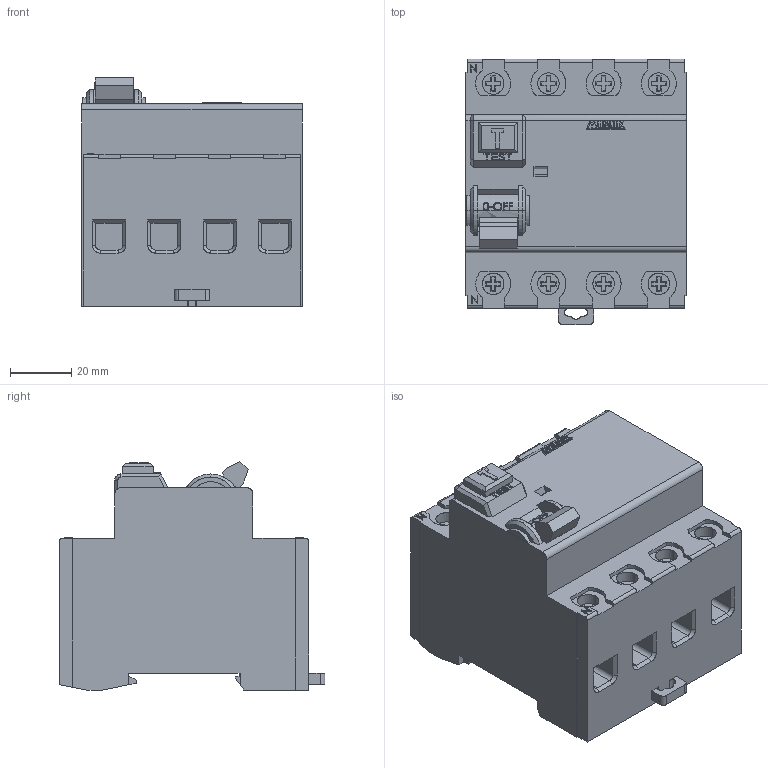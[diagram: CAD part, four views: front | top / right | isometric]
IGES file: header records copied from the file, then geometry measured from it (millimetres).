
Start section: SolidWorks IGES file using analytic representation for surfaces
Global section: file name: D:\X - Arquivos\PROEX\Empresas\P11 - METALTEX\01 - Produtos\IGES\4ª remessa\4ª etapa\DRB100-430.IGS; native system: SolidWorks 2012; preprocessor: SolidWorks 2012; author: Usuario; date: 180511.094801; units: millimetre
Bounding box: 72 x 86.6 x 74.45 mm (x, y, z)
Surface area: 37617.7 mm2 (no closed solid volume)
Topology: 0 solids, 0 shells, 657 faces, 5196 edges, 5196 vertices
Faces by surface type: bspline 541, revolution 116
